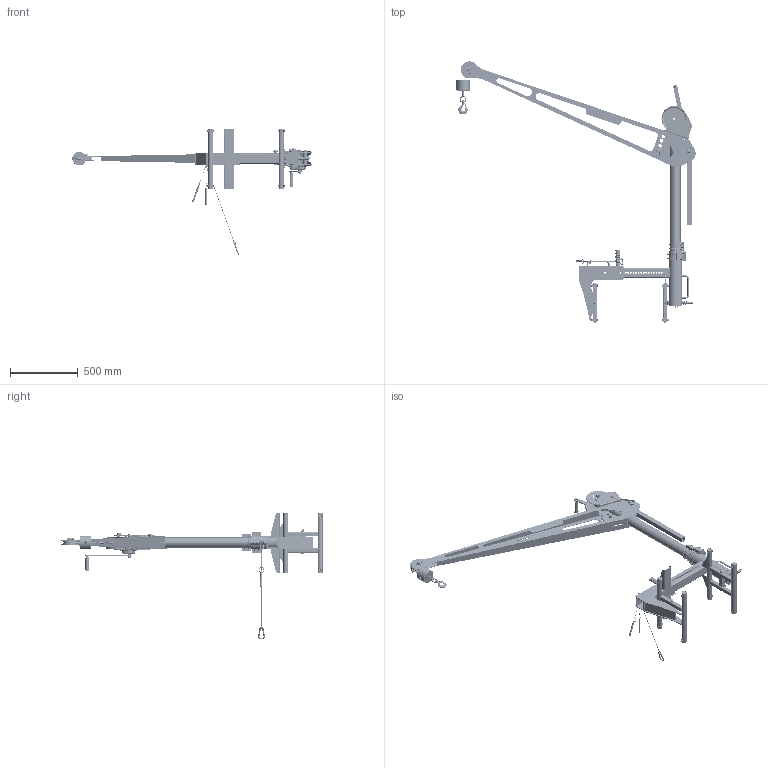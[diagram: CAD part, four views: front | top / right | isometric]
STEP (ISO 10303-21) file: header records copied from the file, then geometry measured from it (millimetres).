
FILE_DESCRIPTION (( 'STEP AP214' ), '1' );
FILE_NAME ('OZPCXS.STEP', '2026-09-22T16:49:39', ( '' ), ( '' ), 'SwSTEP 2.0', 'SolidWorks 2023', '' );
FILE_SCHEMA (( 'AUTOMOTIVE_DESIGN' ));
Length unit declared in the file: inch
Products named in the file (91): 312-0042; 608-07500-075; 206-0041; 312-0202; M110-04070-015_90128A332; 312-0001_default; 410-03800-000_91102A760; 290-0390; 312-0406; 360-10000-375; 206-0201_Left; 101-05013-700_91257A738; 312-0140_Default<As Machined>; 233-05013-038_93560A180; 312-0405_312-0405; 392-0002; 392-4090; 312-0100_Default<As Machined>; 206-0200; OZ1500BW; 392-0310; 312-0203; 312-0404_97045K551; 206-0140_Lengthened; 312-0200; 206-0203; 200-03824-033_95462A515; 206-0042; 310-02500-150; 312-0010; 095-0981_4"; 312-0400_1650A415; 312-0206; 150-03824-400; 390-0391; OZPCXS; 312-0800; 392-0010; DIN 660-2x12-St-B-9_DIN 660-2x12-St-B-9.STEP; 312-0101_Default<As Machined>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
Assembly tree (148 placements, depth 6):
  OZPCXS
    312-0000_18" WALL
      390-0391
      312-0404_97045K551
      312-0002_default
        101-05013-700_91257A738
        312-0041
          312-0202
          312-0200  x2
          312-0201
          312-0203
          312-0140_Default<As Machined>
          312-0400_1650A415
          312-0206  x2
        211-05013-000_97135A250
        312-0005_default
          312-0042
            312-0100_Default<As Machined>  x2
            312-0141_Default<As Machined>  x2
          164-07510-200_91375A843  x4
          312-0302_98694A140  x4
      312-0001_default
        101-05013-700_91257A738
        211-05013-000_97135A250
        312-0003_default
          312-0040
            312-0101_Default<As Machined>
            312-0142_Default<As Machined>
            312-0400_1650A415
            312-0300
          312-0301_98935A861
          312-0303
          312-0304
          200-0400_1095K44
          190-01924-150_93548A121  x4
          210-01924-000_90631A011  x4
          312-0800
          312-0205
          M110-04070-015_90128A332  x4
          263-10005-100_95270A147
        312-0004_default
          312-0043
            312-0100_Default<As Machined>  x2
            312-0141_Default<As Machined>  x2
            312-0204  x2
          164-07510-200_91375A843  x4
          312-0302_98694A140  x4
      312-0010
        312-0405_312-0405
        312-0406
        310-05000-400_310-05000-400  x2
        312-0402  x2
        312-0401
          Buckle.STEP
            buckle part 1.STEP
            buckle part 2.STEP
            DIN 660-2x12-St-B-9_DIN 660-2x12-St-B-9.STEP
    208-0000_Position1
      206-0040
        206-0140_Lengthened
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Bounding box: 1771.81 x 1933.5 x 938.77 mm (x, y, z)
Volume: 9900996.1 mm3; surface area: 4680373.8 mm2
Topology: 191 solids, 191 shells, 15107 faces, 37900 edges, 22759 vertices
Faces by surface type: cylinder 4800, bspline 4531, plane 3002, cone 1625, torus 1107, sphere 42
Entity records: 400346 total; most frequent: CARTESIAN_POINT 245084, ORIENTED_EDGE 34764, DIRECTION 28295, EDGE_CURVE 17382, AXIS2_PLACEMENT_3D 11072, VERTEX_POINT 10868, EDGE_LOOP 7342, ADVANCED_FACE 6820
